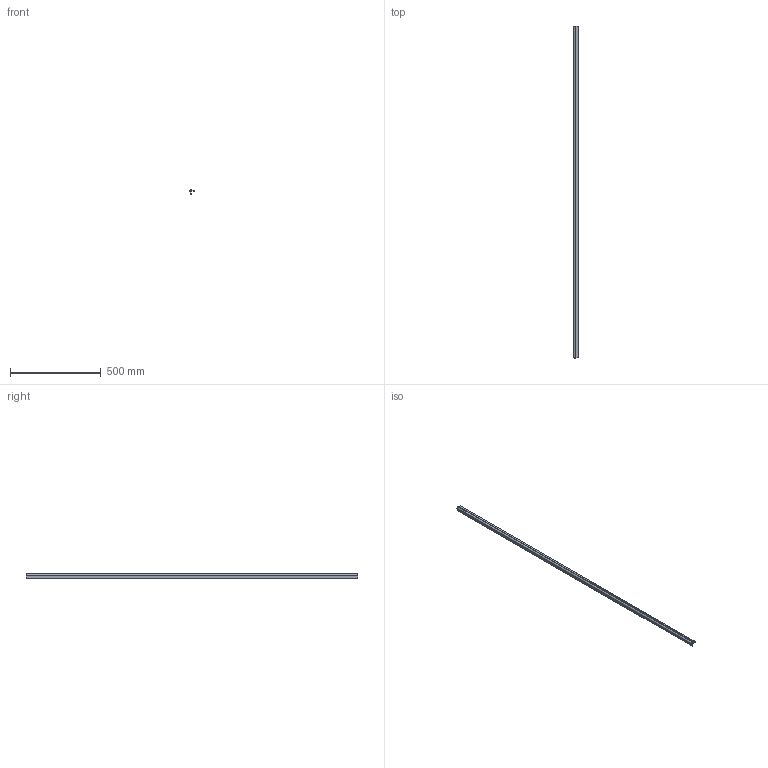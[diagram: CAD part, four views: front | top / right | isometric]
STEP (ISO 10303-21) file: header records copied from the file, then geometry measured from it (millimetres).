
FILE_DESCRIPTION (( 'STEP AP214' ), '1' );
FILE_NAME ('RKL-30125.STEP', '2023-05-14T13:43:55', ( '' ), ( '' ), 'SwSTEP 2.0', 'SolidWorks 2021', '' );
FILE_SCHEMA (( 'AUTOMOTIVE_DESIGN' ));
Length unit declared in the file: inch
Products named in the file (1): RKL-30125
Bounding box: 25.4 x 1828.8 x 25.4 mm (x, y, z)
Volume: 536845.3 mm3; surface area: 194318.3 mm2
Topology: 1 solids, 1 shells, 26 faces, 72 edges, 48 vertices
Faces by surface type: cylinder 14, plane 12
Entity records: 888 total; most frequent: DIRECTION 154, CARTESIAN_POINT 147, ORIENTED_EDGE 144, EDGE_CURVE 72, AXIS2_PLACEMENT_3D 55, VERTEX_POINT 48, VECTOR 44, LINE 44
